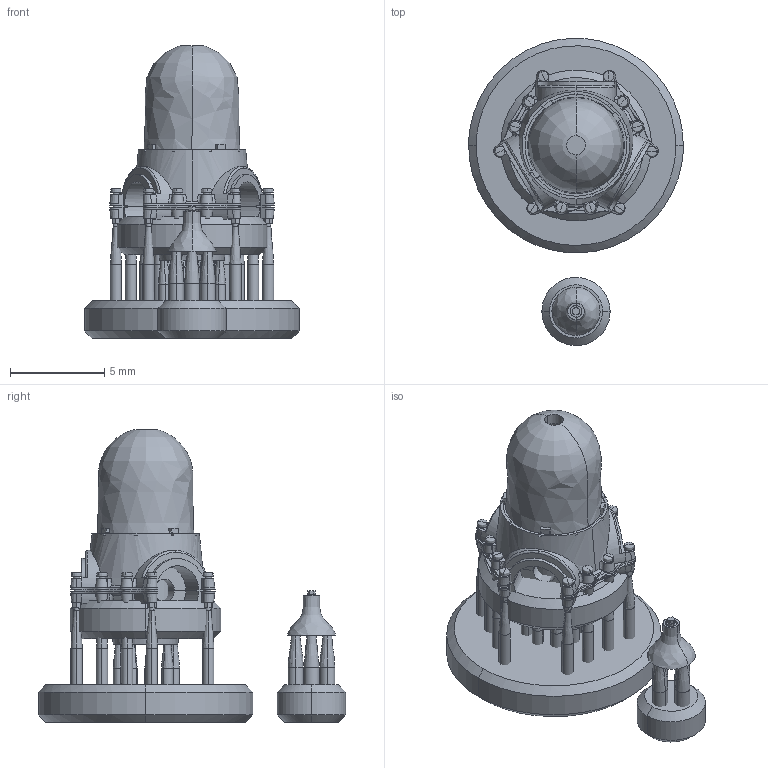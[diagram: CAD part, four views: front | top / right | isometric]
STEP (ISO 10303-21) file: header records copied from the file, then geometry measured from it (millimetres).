
FILE_DESCRIPTION(/* description */ (''),/* implementation_level */ '2;1');
FILE_NAME(/* name */ 'HSHUB2~1',/* time_stamp */ '2021-03-31T18:34:50+02:00',/* author */ (''),/* organization */ (''),/* preprocessor_version */ 'ST-DEVELOPER v16.5',/* originating_system */ '',/* authorisation */ '');
FILE_SCHEMA (('CONFIG_CONTROL_DESIGN'));
Length unit declared in the file: millimetre
Products named in the file (1): Document
Bounding box: 11.39 x 16.3 x 15.54 mm (x, y, z)
Volume: 541.1 mm3; surface area: 1096.6 mm2
Topology: 32 solids, 32 shells, 879 faces, 2150 edges, 1316 vertices
Faces by surface type: bspline 362, plane 351, cylinder 166
Entity records: 30930 total; most frequent: CARTESIAN_POINT 18119, ORIENTED_EDGE 4200, EDGE_CURVE 2100, VERTEX_POINT 1315, EDGE_LOOP 917, ADVANCED_FACE 879, FACE_OUTER_BOUND 879, B_SPLINE_CURVE_WITH_KNOTS 781
